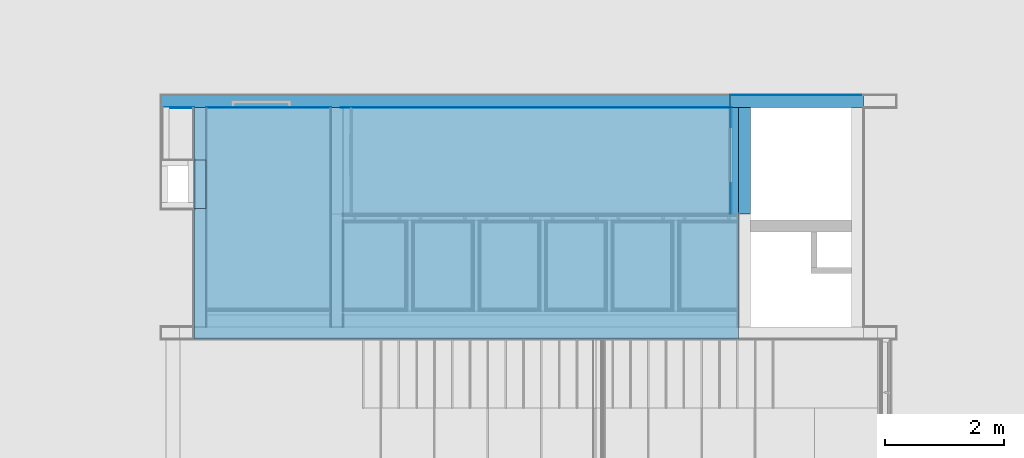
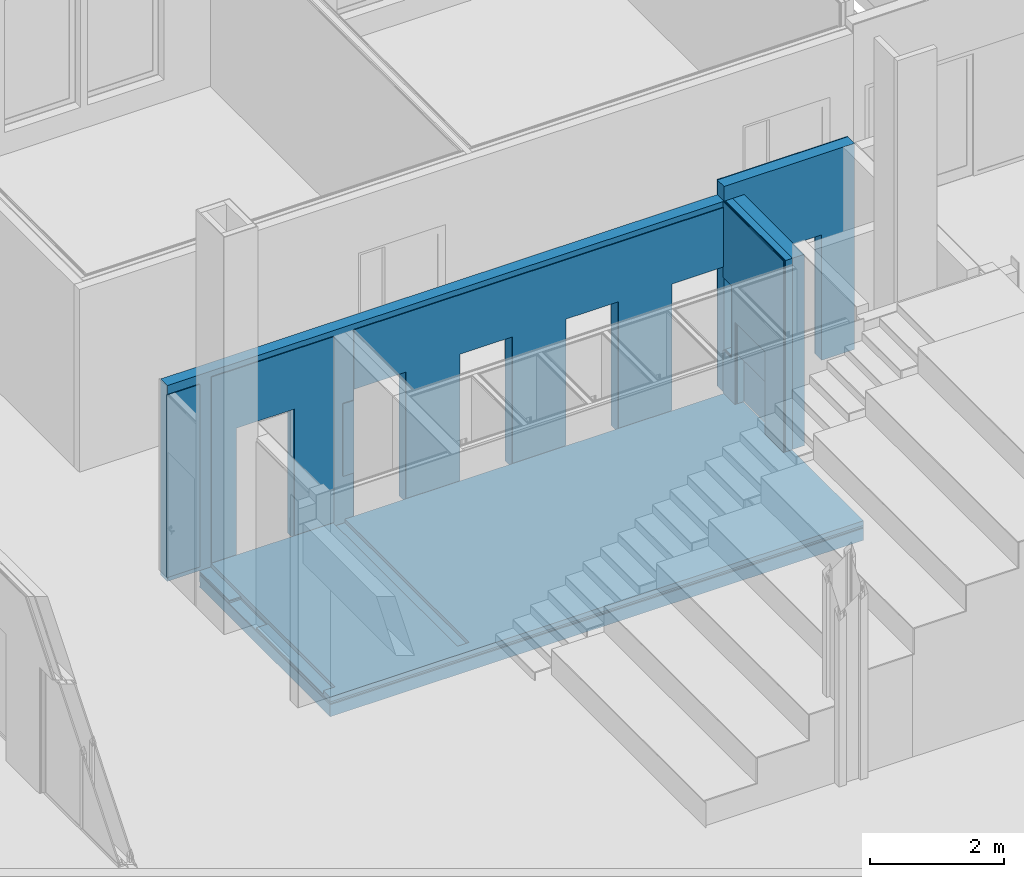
# One storey, part 100 of 139: 13 building element parts, 9 openings, 4 elements without a shape of their own.
"""IFC2X3 building model written with IfcOpenShell, lengths in millimetres."""

from ifc_helpers import new_model, entity, si_unit, converted_unit, derived_unit, money_unit, direction, frame, origin_with_axes, place, context, subcontext, project, spatial, faceted_brep, material, type_object, element, aggregate, save


model = new_model("IFC2X3")

# Units and contexts
model_context = context("Model", 3, precision=0.01, world=origin_with_axes(), true_north=direction((0.0, 1.0)))
body_context = subcontext(model_context, "Body", "Model", "MODEL_VIEW")
ifc_project = project(units=[si_unit("LENGTHUNIT", "METRE", prefix="MILLI"), si_unit("AREAUNIT", "SQUARE_METRE"), si_unit("VOLUMEUNIT", "CUBIC_METRE"), converted_unit("PLANEANGLEUNIT", "DEGREE", entity("IfcPlaneAngleMeasure", 0.0174532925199), si_unit("PLANEANGLEUNIT", "RADIAN"), dimensions=[0, 0, 0, 0, 0, 0, 0]), money_unit("EUR"), converted_unit("TIMEUNIT", "Year", entity("IfcTimeMeasure", 31556926.0), si_unit("TIMEUNIT", "SECOND"), dimensions=[0, 0, 1, 0, 0, 0, 0]), si_unit("MASSUNIT", "GRAM", prefix="KILO"), si_unit("THERMODYNAMICTEMPERATUREUNIT", "DEGREE_CELSIUS"), si_unit("LUMINOUSINTENSITYUNIT", "LUMEN"), si_unit("ENERGYUNIT", "JOULE", prefix="MEGA"), derived_unit("THERMALCONDUCTANCEUNIT", [(si_unit("POWERUNIT", "WATT"), 1), (si_unit("LENGTHUNIT", "METRE"), -1), (si_unit("THERMODYNAMICTEMPERATUREUNIT", "KELVIN"), -1)]), derived_unit("SPECIFICHEATCAPACITYUNIT", [(si_unit("ENERGYUNIT", "JOULE"), 1), (si_unit("MASSUNIT", "GRAM", prefix="KILO"), -1), (si_unit("THERMODYNAMICTEMPERATUREUNIT", "KELVIN"), -1)]), derived_unit("MASSDENSITYUNIT", [(si_unit("MASSUNIT", "GRAM", prefix="KILO"), 1), (si_unit("VOLUMEUNIT", "CUBIC_METRE"), -1)])], contexts=[model_context])

# Site, building, storey
site_placement = place(None, origin_with_axes())
site = spatial("IfcSite", under=ifc_project, at=site_placement, Name="Kolde pst 67a", CompositionType="ELEMENT")
building_placement = place(site_placement, origin_with_axes())
building = spatial("IfcBuilding", under=site, at=building_placement, Name="Riigigümnaasium", CompositionType="ELEMENT")
storey_placement = place(building_placement, frame((0.0, 0.0, 4600.0), z_axis=(0.0, 0.0, 1.0), x_axis=(1.0, 0.0, 0.0)))
storey = spatial("IfcBuildingStorey", under=building, at=storey_placement, Name="2. korrus", CompositionType="ELEMENT", Elevation=4600.0)

# Slab, building element parts
slab_type = type_object("IfcSlabType", Name="VL-RB-22/1 370", PredefinedType="NOTDEFINED")
slab_placement = place(storey_placement, frame((36604.99923, 45669.9999598, 0.0), z_axis=(0.0, 0.0, 1.0), x_axis=(1.0, 0.0, 0.0)))
slab = element("IfcSlab", 1, at=slab_placement, inside=storey, type_object=slab_type, Name="VAHELAGI", PredefinedType="NOTDEFINED")
ifc_material_1 = material(Name="_PEALEVALUKIHT - raudbetoonplaat vastavalt EK osale, vajadusel põrandküte")
building_element_part_1_placement = place(slab_placement, origin_with_axes())
building_element_part_1 = element("IfcBuildingElementPart", 2, at=building_element_part_1_placement, material=ifc_material_1, Name="_PEALEVALUKIHT - raudbetoonplaat vastavalt EK osale, vajadusel põrandküte", context=body_context, shape_type="Brep", body=[
    faceted_brep([(2304.83128133, 3900.0, -80.0), (2504.83128133, 3900.0, -80.0), (2504.83128133, 3900.0, -15.0), (9169.98623068, 3900.00004015, -15.0), (9169.98623068, 3900.00004015, -100.0), (0.0, 3900.00004015, -100.0), (0.0, 3900.0, -80.0), (200.0, 3900.0, -80.0), (200.0, 3900.0, -15.0), (2304.83128133, 3900.0, -15.0), (2304.83128133, 200.0, -80.0), (2504.83128133, 200.0, -80.0), (2504.83128133, 200.0, -15.0), (200.0, 200.0, -15.0), (0.0, 200.0, -15.0), (0.0, 0.0, -15.0), (9169.98623068, 0.0, -15.0), (2304.83128133, 200.0, -15.0), (9169.98623068, 0.0, -100.0), (200.0, 3010.00037669, -100.0), (0.0, 3010.00037669, -100.0), (0.0, 0.0, -100.0), (0.0, 2195.00037575, -100.0), (200.0, 2195.00037575, -100.0), (0.0, 3010.00037669, -80.0), (200.0, 3010.00037669, -80.0), (200.0, 2195.00037575, -80.0), (200.0, 200.0, -80.0), (0.0, 200.0, -80.0), (0.0, 2195.00037575, -80.0)], [[[0, 1, 2, 3, 4, 5, 6, 7, 8, 9]], [[1, 0, 10, 11]], [[2, 1, 11, 12]], [[9, 8, 13, 14, 15, 16, 3, 2, 12, 17]], [[18, 4, 3, 16]], [[19, 20, 5, 4, 18, 21, 22, 23]], [[24, 6, 5, 20]], [[7, 6, 24, 25]], [[8, 7, 25, 19, 23, 26, 27, 13]], [[0, 9, 17, 10]], [[17, 12, 11, 10]], [[14, 13, 27, 28]], [[28, 29, 22, 21, 15, 14]], [[21, 18, 16, 15]], [[25, 24, 20, 19]], [[29, 26, 23, 22]], [[26, 29, 28, 27]]]),
])
ifc_material_2 = material(Name="_ISOLATSIOON - löögimüraisolatsioon, mineraalvill, koormustaluvus min 20 kPa, dünaamiline jäikus 16 MN/m³, ISOVER FLO või samaväärne")
building_element_part_2_placement = place(slab_placement, origin_with_axes())
building_element_part_2 = element("IfcBuildingElementPart", 3, at=building_element_part_2_placement, material=ifc_material_2, Name="_ISOLATSIOON - löögimüraisolatsioon, mineraalvill, koormustaluvus min 20 kPa, dünaamiline jäikus 16 MN/m³, ISOVER FLO või samaväärne", context=body_context, shape_type="Brep", body=[
    faceted_brep([(200.0, 2195.00037575, -100.0), (0.0, 2195.00037575, -100.0), (0.0, 0.0, -100.0), (9169.98623068, 0.0, -100.0), (9169.98623068, 3900.00004015, -100.0), (0.0, 3900.00004015, -100.0), (0.0, 3010.00037669, -100.0), (200.0, 3010.00037669, -100.0), (200.0, 2195.00037575, -130.0), (0.0, 2195.00037575, -130.0), (0.0, 0.0, -130.0), (9169.98623068, 0.0, -130.0), (9169.98623068, 3900.00004015, -130.0), (0.0, 3900.00004015, -130.0), (0.0, 3010.00037669, -130.0), (200.0, 3010.00037669, -130.0)], [[[0, 1, 2, 3, 4, 5, 6, 7]], [[1, 0, 8, 9]], [[1, 9, 10, 2]], [[10, 11, 3, 2]], [[11, 12, 4, 3]], [[12, 13, 5, 4]], [[14, 6, 5, 13]], [[7, 6, 14, 15]], [[0, 7, 15, 8]], [[15, 14, 13, 12, 11, 10, 9, 8]]]),
])
ifc_material_3 = material(Name="_SOOJUSTUS - vahtpolüstüreenplaadid EPS 80, survetugevus min 80kPa, soojuserijuhtivus λD<0,038 W/(mK)")
building_element_part_3_placement = place(slab_placement, origin_with_axes())
building_element_part_3 = element("IfcBuildingElementPart", 4, at=building_element_part_3_placement, material=ifc_material_3, Name="_SOOJUSTUS - vahtpolüstüreenplaadid EPS 80, survetugevus min 80kPa, soojuserijuhtivus λD<0,038 W/(mK)", context=body_context, shape_type="Brep", body=[
    faceted_brep([(9169.98623068, 0.0, -150.0), (9169.98623068, 0.0, -130.0), (0.0, 0.0, -130.0), (0.0, 0.0, -150.0), (9169.98623068, 3900.00004015, -150.0), (9169.98623068, 3900.00004015, -130.0), (0.0, 3900.00004015, -130.0), (0.0, 3900.00004015, -150.0)], [[[0, 1, 2, 3]], [[4, 5, 1, 0]], [[2, 1, 5, 6]], [[3, 2, 6, 7]], [[3, 7, 4, 0]], [[7, 6, 5, 4]]]),
])
ifc_material_4 = material(Name="_KANDETARIND - monteeritav raudbetoon vastavalt EK osale")
building_element_part_4_placement = place(slab_placement, origin_with_axes())
building_element_part_4 = element("IfcBuildingElementPart", 5, at=building_element_part_4_placement, material=ifc_material_4, Name="_KANDETARIND - monteeritav raudbetoon vastavalt EK osale", context=body_context, shape_type="Brep", body=[
    faceted_brep([(0.0, 3900.0, -360.0), (200.0, 3900.0, -360.0), (200.0, 3900.0, -270.0), (0.0, 3900.0, -270.0), (0.0, 3900.00004015, -150.0), (9169.98623068, 3900.00004015, -150.0), (9169.98623068, 3900.00004015, -370.0), (0.0, 3900.00004015, -370.0), (0.0, 3885.0, -360.0), (200.0, 3885.0, -360.0), (200.0, 3885.0, -270.0), (0.0, 3885.0, -270.0), (0.0, 0.0, -370.0), (0.0, 0.0, -150.0), (9169.98623068, 0.0, -150.0), (9169.98623068, 0.0, -370.0)], [[[0, 1, 2, 3, 4, 5, 6, 7]], [[1, 0, 8, 9]], [[2, 1, 9, 10]], [[3, 2, 10, 11]], [[8, 0, 7, 12, 13, 4, 3, 11]], [[4, 13, 14, 5]], [[14, 15, 6, 5]], [[15, 12, 7, 6]], [[8, 11, 10, 9]], [[13, 12, 15, 14]]]),
])
aggregate(slab, [building_element_part_1, building_element_part_2, building_element_part_3, building_element_part_4])

# Wall, openings, building element parts
wall_type_1 = type_object("IfcWallType", Name="SS-RB-20/2_+2 plaat 230", PredefinedType="NOTDEFINED")
wall_1_placement = place(storey_placement, frame((36039.99923, 49769.9999599, -80.0), z_axis=(0.0, 0.0, 1.0), x_axis=(1.0, 0.0, 0.0)))
wall_1 = element("IfcWall", 6, at=wall_1_placement, inside=storey, type_object=wall_type_1, Name="Sisesein")
opening_1_placement = place(wall_1_placement, origin_with_axes())
element("IfcOpeningElement", 7, at=opening_1_placement, cuts=wall_1, Name="Pale", context=body_context, shape_type="Brep", body=[
    faceted_brep([(15.0, 15.0, 0.0), (0.0, 15.0, 0.0), (0.0, 15.0, 3560.0), (15.0, 15.0, 3560.0), (15.0, -200.0, 0.0), (0.0, -200.0, 0.0), (0.0, -200.0, 3560.0), (15.0, -200.0, 3560.0)], [[[0, 1, 2, 3]], [[0, 4, 5, 1]], [[1, 5, 6, 2]], [[3, 2, 6, 7]], [[4, 0, 3, 7]], [[5, 4, 7, 6]]]),
])
opening_2_placement = place(wall_1_placement, frame((9139.98623068, 0.0, 80.0), z_axis=(0.0, 0.0, 1.0), x_axis=(1.0, 0.0, 0.0)))
element("IfcOpeningElement", 8, at=opening_2_placement, cuts=wall_1, Name="Ukseava", context=body_context, shape_type="Brep", body=[
    faceted_brep([(450.0, 460.0, 0.0), (450.0, 460.0, 2300.0), (450.0, -230.0, 2300.0), (450.0, -230.0, 0.0), (-450.0, 460.0, 0.0), (-450.0, 460.0, 2300.0), (-450.0, -230.0, 2300.0), (-450.0, -230.0, 0.0)], [[[0, 1, 2, 3]], [[0, 4, 5, 1]], [[1, 5, 6, 2]], [[3, 2, 6, 7]], [[4, 0, 3, 7]], [[5, 4, 7, 6]]]),
])
opening_3_placement = place(wall_1_placement, frame((1694.98623068, 0.0, 80.0), z_axis=(0.0, 0.0, 1.0), x_axis=(1.0, 0.0, 0.0)))
element("IfcOpeningElement", 9, at=opening_3_placement, cuts=wall_1, Name="Siseuks", context=body_context, shape_type="Brep", body=[
    faceted_brep([(-500.0, -85.0, 2300.0), (-500.0, -85.0, 0.0), (-500.0, -445.0, 0.0), (-500.0, -445.0, 2300.0), (500.0, -85.0, 2300.0), (500.0, -85.0, 0.0), (500.0, -445.0, 0.0), (500.0, -445.0, 2300.0)], [[[0, 1, 2, 3]], [[0, 4, 5, 1]], [[1, 5, 6, 2]], [[3, 2, 6, 7]], [[4, 0, 3, 7]], [[5, 4, 7, 6]]]),
    faceted_brep([(-500.0, -85.0, 0.0), (-500.0, -85.0, 2300.0), (-500.0, 245.0, 2300.0), (-500.0, 245.0, 0.0), (500.0, -85.0, 0.0), (500.0, -85.0, 2300.0), (500.0, 245.0, 2300.0), (500.0, 245.0, 0.0)], [[[0, 1, 2, 3]], [[0, 4, 5, 1]], [[1, 5, 6, 2]], [[3, 2, 6, 7]], [[4, 0, 3, 7]], [[5, 4, 7, 6]]]),
])
opening_4_placement = place(wall_1_placement, frame((7314.98623068, 0.0, 80.0), z_axis=(0.0, 0.0, 1.0), x_axis=(1.0, 0.0, 0.0)))
element("IfcOpeningElement", 10, at=opening_4_placement, cuts=wall_1, Name="Ukseava", context=body_context, shape_type="Brep", body=[
    faceted_brep([(450.0, 460.0, 0.0), (450.0, 460.0, 2300.0), (450.0, -230.0, 2300.0), (450.0, -230.0, 0.0), (-450.0, 460.0, 0.0), (-450.0, 460.0, 2300.0), (-450.0, -230.0, 2300.0), (-450.0, -230.0, 0.0)], [[[0, 1, 2, 3]], [[0, 4, 5, 1]], [[1, 5, 6, 2]], [[3, 2, 6, 7]], [[4, 0, 3, 7]], [[5, 4, 7, 6]]]),
])
opening_5_placement = place(wall_1_placement, frame((5489.98623068, 0.0, 80.0), z_axis=(0.0, 0.0, 1.0), x_axis=(1.0, 0.0, 0.0)))
element("IfcOpeningElement", 11, at=opening_5_placement, cuts=wall_1, Name="Ukseava", context=body_context, shape_type="Brep", body=[
    faceted_brep([(450.0, 460.0, 0.0), (450.0, 460.0, 2300.0), (450.0, -230.0, 2300.0), (450.0, -230.0, 0.0), (-450.0, 460.0, 0.0), (-450.0, 460.0, 2300.0), (-450.0, -230.0, 2300.0), (-450.0, -230.0, 0.0)], [[[0, 1, 2, 3]], [[0, 4, 5, 1]], [[1, 5, 6, 2]], [[3, 2, 6, 7]], [[4, 0, 3, 7]], [[5, 4, 7, 6]]]),
])
opening_6_placement = place(wall_1_placement, frame((3664.98623068, 0.0, 80.0), z_axis=(0.0, 0.0, 1.0), x_axis=(1.0, 0.0, 0.0)))
element("IfcOpeningElement", 12, at=opening_6_placement, cuts=wall_1, Name="Ukseava", context=body_context, shape_type="Brep", body=[
    faceted_brep([(450.0, 460.0, 0.0), (450.0, 460.0, 2300.0), (450.0, -230.0, 2300.0), (450.0, -230.0, 0.0), (-450.0, 460.0, 0.0), (-450.0, 460.0, 2300.0), (-450.0, -230.0, 2300.0), (-450.0, -230.0, 0.0)], [[[0, 1, 2, 3]], [[0, 4, 5, 1]], [[1, 5, 6, 2]], [[3, 2, 6, 7]], [[4, 0, 3, 7]], [[5, 4, 7, 6]]]),
])
building_element_part_5_placement = place(wall_1_placement, origin_with_axes())
building_element_part_5 = element("IfcBuildingElementPart", 13, at=building_element_part_5_placement, material=ifc_material_4, Name="_KANDETARIND - monteeritav raudbetoon vastavalt EK osale", context=body_context, shape_type="Brep", body=[
    faceted_brep([(3214.98623068, 0.0, 2380.0), (3214.98623068, 0.0, 80.0), (3214.98623068, 0.0, 0.0), (2194.98623068, 0.0, 0.0), (2194.98623068, 0.0, 80.0), (2194.98623068, 0.0, 2380.0), (1194.98623068, 0.0, 2380.0), (1194.98623068, 0.0, 80.0), (1194.98623068, 0.0, 0.0), (15.0, 0.0, 0.0), (15.0, 0.0, 3560.0), (9589.98623068, 0.0, 3560.0), (9589.98623068, 0.0, 2380.0), (8689.98623068, 0.0, 2380.0), (8689.98623068, 0.0, 80.0), (8689.98623068, 0.0, 0.0), (7764.98623068, 0.0, 0.0), (7764.98623068, 0.0, 80.0), (7764.98623068, 0.0, 2380.0), (6864.98623068, 0.0, 2380.0), (6864.98623068, 0.0, 80.0), (6864.98623068, 0.0, 0.0), (5939.98623068, 0.0, 0.0), (5939.98623068, 0.0, 80.0), (5939.98623068, 0.0, 2380.0), (5039.98623068, 0.0, 2380.0), (5039.98623068, 0.0, 80.0), (5039.98623068, 0.0, 0.0), (4114.98623068, 0.0, 0.0), (4114.98623068, 0.0, 80.0), (4114.98623068, 0.0, 2380.0), (3214.98623068, -200.0, 2380.0), (3214.98623068, -200.0, 80.0), (3214.98623068, -200.0, 0.0), (2194.98623068, -200.0, 0.0), (2194.98623068, -200.0, 80.0), (2194.98623068, -200.0, 2380.0), (1194.98623068, -200.0, 2380.0), (1194.98623068, -200.0, 80.0), (1194.98623068, -200.0, 0.0), (15.0, -200.0, 0.0), (15.0, -200.0, 3560.0), (9589.98623068, -200.0, 3560.0), (9589.98623068, -200.0, 2380.0), (8689.98623068, -200.0, 2380.0), (8689.98623068, -200.0, 80.0), (8689.98623068, -200.0, 0.0), (7764.98623068, -200.0, 0.0), (7764.98623068, -200.0, 80.0), (7764.98623068, -200.0, 2380.0), (6864.98623068, -200.0, 2380.0), (6864.98623068, -200.0, 80.0), (6864.98623068, -200.0, 0.0), (5939.98623068, -200.0, 0.0), (5939.98623068, -200.0, 80.0), (5939.98623068, -200.0, 2380.0), (5039.98623068, -200.0, 2380.0), (5039.98623068, -200.0, 80.0), (5039.98623068, -200.0, 0.0), (4114.98623068, -200.0, 0.0), (4114.98623068, -200.0, 80.0), (4114.98623068, -200.0, 2380.0)], [[[0, 1, 2, 3, 4, 5, 6, 7, 8, 9, 10, 11, 12, 13, 14, 15, 16, 17, 18, 19, 20, 21, 22, 23, 24, 25, 26, 27, 28, 29, 30]], [[1, 0, 31, 32]], [[1, 32, 33, 2]], [[3, 2, 33, 34]], [[34, 35, 4, 3]], [[4, 35, 36, 5]], [[6, 5, 36, 37]], [[6, 37, 38, 7]], [[7, 38, 39, 8]], [[8, 39, 40, 9]], [[9, 40, 41, 10]], [[42, 11, 10, 41]], [[12, 11, 42, 43]], [[12, 43, 44, 13]], [[13, 44, 45, 14]], [[45, 46, 15, 14]], [[16, 15, 46, 47]], [[16, 47, 48, 17]], [[48, 49, 18, 17]], [[49, 50, 19, 18]], [[50, 51, 20, 19]], [[52, 21, 20, 51]], [[22, 21, 52, 53]], [[23, 22, 53, 54]], [[23, 54, 55, 24]], [[24, 55, 56, 25]], [[25, 56, 57, 26]], [[57, 58, 27, 26]], [[28, 27, 58, 59]], [[60, 29, 28, 59]], [[30, 29, 60, 61]], [[0, 30, 61, 31]], [[61, 60, 59, 58, 57, 56, 55, 54, 53, 52, 51, 50, 49, 48, 47, 46, 45, 44, 43, 42, 41, 40, 39, 38, 37, 36, 35, 34, 33, 32, 31]]]),
])
ifc_material_5 = material(Name="_VIIMISTLUSKIHT - viimistlus vastavalt SA osale")
building_element_part_6_placement = place(wall_1_placement, origin_with_axes())
building_element_part_6 = element("IfcBuildingElementPart", 14, at=building_element_part_6_placement, material=ifc_material_5, Name="_VIIMISTLUSKIHT - viimistlus vastavalt SA osale", context=body_context, shape_type="Brep", body=[
    faceted_brep([(0.0, -200.0, 3400.0), (565.0, -200.0, 3400.0), (565.0, -200.0, 80.0), (0.0, -200.0, 80.0), (565.0, -215.0, 3400.0), (0.0, -215.0, 3400.0), (565.0, -215.0, 80.0), (0.0, -215.0, 80.0)], [[[0, 1, 2, 3]], [[4, 1, 0, 5]], [[1, 4, 6, 2]], [[3, 2, 6, 7]], [[5, 0, 3, 7]], [[4, 5, 7, 6]]]),
    faceted_brep([(3214.98623068, -200.0, 2380.0), (3214.98623068, -199.99995985, 80.0), (3214.83128133, -199.99995985, 80.0), (3214.83128133, -199.99995985, 860.0), (3029.83128133, -199.99995985, 860.0), (3029.83128133, -199.99995985, 2180.0), (3214.83128133, -199.99995985, 2180.0), (3214.83128133, -200.0, 3460.0), (9589.98623068, -200.0, 3460.0), (9589.98623068, -200.0, 2380.0), (8689.98623068, -200.0, 2380.0), (8689.98623068, -199.99995985, 80.0), (7764.98623068, -199.99995985, 80.0), (7764.98623068, -200.0, 2380.0), (6864.98623068, -200.0, 2380.0), (6864.98623068, -199.99995985, 80.0), (5939.98623068, -199.99995985, 80.0), (5939.98623068, -200.0, 2380.0), (5039.98623068, -200.0, 2380.0), (5039.98623068, -199.99995985, 80.0), (4114.98623068, -199.99995985, 80.0), (4114.98623068, -200.0, 2380.0), (3214.98623068, -215.0, 2380.0), (3214.98623068, -215.0, 80.0), (3214.83128133, -215.0, 80.0), (3214.83128133, -215.0, 860.0), (3029.83128133, -215.0, 860.0), (3029.83128133, -215.0, 2180.0), (3214.83128133, -215.0, 2180.0), (3214.83128133, -215.0, 3460.0), (9589.98623068, -215.0, 3460.0), (9589.98623068, -215.0, 2380.0), (8689.98623068, -215.0, 2380.0), (8689.98623068, -215.0, 80.0), (7764.98623068, -215.0, 80.0), (7764.98623068, -215.0, 2380.0), (6864.98623068, -215.0, 2380.0), (6864.98623068, -215.0, 80.0), (5939.98623068, -215.0, 80.0), (5939.98623068, -215.0, 2380.0), (5039.98623068, -215.0, 2380.0), (5039.98623068, -215.0, 80.0), (4114.98623068, -215.0, 80.0), (4114.98623068, -215.0, 2380.0)], [[[0, 1, 2, 3, 4, 5, 6, 7, 8, 9, 10, 11, 12, 13, 14, 15, 16, 17, 18, 19, 20, 21]], [[1, 0, 22, 23]], [[1, 23, 24, 2]], [[2, 24, 25, 3]], [[4, 3, 25, 26]], [[27, 5, 4, 26]], [[27, 28, 6, 5]], [[29, 7, 6, 28]], [[30, 8, 7, 29]], [[30, 31, 9, 8]], [[32, 10, 9, 31]], [[33, 11, 10, 32]], [[11, 33, 34, 12]], [[34, 35, 13, 12]], [[35, 36, 14, 13]], [[36, 37, 15, 14]], [[16, 15, 37, 38]], [[16, 38, 39, 17]], [[17, 39, 40, 18]], [[18, 40, 41, 19]], [[42, 20, 19, 41]], [[21, 20, 42, 43]], [[0, 21, 43, 22]], [[43, 42, 41, 40, 39, 38, 37, 36, 35, 34, 33, 32, 31, 30, 29, 28, 27, 26, 25, 24, 23, 22]]]),
    faceted_brep([(1194.98623068, -200.0, 2380.0), (1194.98623068, -199.99995985, 80.0), (765.0, -199.99995985, 80.0), (765.0, -200.0, 3460.0), (2869.83128133, -200.0, 3460.0), (2869.83128133, -199.99995985, 80.0), (2194.98623068, -199.99995985, 80.0), (2194.98623068, -200.0, 2380.0), (1194.98623068, -215.0, 2380.0), (1194.98623068, -215.0, 80.0), (765.0, -215.0, 80.0), (765.0, -215.0, 3460.0), (2869.83128133, -215.0, 3460.0), (2869.83128133, -215.0, 80.0), (2194.98623068, -215.0, 80.0), (2194.98623068, -215.0, 2380.0)], [[[0, 1, 2, 3, 4, 5, 6, 7]], [[1, 0, 8, 9]], [[1, 9, 10, 2]], [[3, 2, 10, 11]], [[4, 3, 11, 12]], [[12, 13, 5, 4]], [[14, 6, 5, 13]], [[7, 6, 14, 15]], [[0, 7, 15, 8]], [[15, 14, 13, 12, 11, 10, 9, 8]]]),
])
aggregate(wall_1, [building_element_part_5, building_element_part_6])

# Wall, opening, building element parts
wall_type_2 = type_object("IfcWallType", Name="SS-RB-20/5_+1 plaat 215", PredefinedType="NOTDEFINED")
wall_2_placement = place(storey_placement, frame((45629.9854607, 49769.9999599, 0.0), z_axis=(0.0, 0.0, 1.0), x_axis=(1.0, 0.0, 0.0)))
wall_2 = element("IfcWall", 15, at=wall_2_placement, inside=storey, type_object=wall_type_2, Name="Sisesein")
opening_7_placement = place(wall_2_placement, frame((1078.76891191, 0.0, 0.0), z_axis=(0.0, 0.0, 1.0), x_axis=(1.0, 0.0, 0.0)))
element("IfcOpeningElement", 16, at=opening_7_placement, cuts=wall_2, Name="Siseuks", context=body_context, shape_type="Brep", body=[
    faceted_brep([(600.0, 215.0, 0.0), (600.0, 215.0, 2280.0), (600.0, -430.0, 2280.0), (600.0, -430.0, 0.0), (-600.0, 215.0, 0.0), (-600.0, 215.0, 2280.0), (-600.0, -430.0, 2280.0), (-600.0, -430.0, 0.0)], [[[0, 1, 2, 3]], [[0, 4, 5, 1]], [[1, 5, 6, 2]], [[3, 2, 6, 7]], [[4, 0, 3, 7]], [[5, 4, 7, 6]]]),
])
building_element_part_7_placement = place(wall_2_placement, origin_with_axes())
building_element_part_7 = element("IfcBuildingElementPart", 17, at=building_element_part_7_placement, material=ifc_material_5, Name="_VIIMISTLUSKIHT - viimistlus vastavalt SA osale", context=body_context, shape_type="Brep", body=[
    faceted_brep([(478.768911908, 15.0, 2280.0), (478.768911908, 15.0, 0.0), (0.0, 15.0, 0.0), (0.0, 15.0, 3747.0), (2245.0, 15.0, 3747.0), (2245.0, 15.0, 0.0), (1678.76891191, 15.0, 0.0), (1678.76891191, 15.0, 2280.0), (478.768911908, 0.0, 2280.0), (478.768911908, 0.0, 0.0), (0.0, 0.0, 0.0), (0.0, 0.0, 3747.0), (2245.0, 0.0, 3747.0), (2245.0, 0.0, 0.0), (1678.76891191, 0.0, 0.0), (1678.76891191, 0.0, 2280.0)], [[[0, 1, 2, 3, 4, 5, 6, 7]], [[1, 0, 8, 9]], [[1, 9, 10, 2]], [[3, 2, 10, 11]], [[4, 3, 11, 12]], [[13, 5, 4, 12]], [[14, 6, 5, 13]], [[7, 6, 14, 15]], [[0, 7, 15, 8]], [[15, 14, 13, 12, 11, 10, 9, 8]]]),
])
building_element_part_8_placement = place(wall_2_placement, origin_with_axes())
building_element_part_8 = element("IfcBuildingElementPart", 18, at=building_element_part_8_placement, material=ifc_material_4, Name="_KANDETARIND - monteeritav raudbetoon vastavalt EK osale", context=body_context, shape_type="Brep", body=[
    faceted_brep([(478.768911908, 0.0, 2280.0), (478.768911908, 0.0, 0.0), (0.0, 0.0, 0.0), (0.0, 0.0, 3747.0), (2245.0, 0.0, 3747.0), (2245.0, 0.0, 0.0), (1678.76891191, 0.0, 0.0), (1678.76891191, 0.0, 2280.0), (478.768911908, -200.0, 2280.0), (478.768911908, -200.0, 0.0), (0.0, -200.0, 0.0), (0.0, -200.0, 3747.0), (2245.0, -200.0, 3747.0), (2245.0, -200.0, 0.0), (1678.76891191, -200.0, 0.0), (1678.76891191, -200.0, 2280.0)], [[[0, 1, 2, 3, 4, 5, 6, 7]], [[1, 0, 8, 9]], [[1, 9, 10, 2]], [[3, 2, 10, 11]], [[4, 3, 11, 12]], [[13, 5, 4, 12]], [[14, 6, 5, 13]], [[7, 6, 14, 15]], [[0, 7, 15, 8]], [[15, 14, 13, 12, 11, 10, 9, 8]]]),
])
aggregate(wall_2, [building_element_part_7, building_element_part_8])

# Wall, openings, building element parts
wall_type_3 = type_object("IfcWallType", Name="SS-RB-20/10_+1 plaat +kollektor 360", PredefinedType="NOTDEFINED")
wall_3_placement = place(storey_placement, frame((45774.9854607, 47778.4999608, 0.0), z_axis=(0.0, 0.0, 1.0), x_axis=(0.0, 1.0, 0.0)))
wall_3 = element("IfcWall", 19, at=wall_3_placement, inside=storey, type_object=wall_type_3, Name="Sisesein")
opening_8_placement = place(wall_3_placement, frame((-47778.4999608, 45774.9854607, -4600.0), z_axis=(0.0, 0.0, 1.0), x_axis=(0.0, -1.0, 0.0)))
element("IfcOpeningElement", 20, at=opening_8_placement, cuts=wall_3, Name="Tulekustuti nišš vastavalt SA osale", ObjectType="OPENING", context=body_context, shape_type="Brep", body=[
    faceted_brep([(45774.9854607, 48320.0275677, 4600.0), (45774.9854607, 48320.0275677, 5500.0), (45614.9854607, 48320.0275677, 5500.0), (45614.9854607, 48320.0275677, 4600.0), (45774.9854607, 49220.0275677, 4600.0), (45774.9854607, 49220.0275677, 5500.0), (45614.9854607, 49220.0275677, 5500.0), (45614.9854607, 49220.0275677, 4600.0)], [[[0, 1, 2, 3]], [[0, 4, 5, 1]], [[1, 5, 6, 2]], [[3, 2, 6, 7]], [[4, 0, 3, 7]], [[5, 4, 7, 6]]]),
])
opening_9_placement = place(wall_3_placement, frame((-47778.4999608, 45774.9854607, -4600.0), z_axis=(0.0, 0.0, 1.0), x_axis=(0.0, -1.0, 0.0)))
element("IfcOpeningElement", 21, at=opening_9_placement, cuts=wall_3, Name="Tulekustuti nišš vastavalt SA osale", ObjectType="OPENING", context=body_context, shape_type="Brep", body=[
    faceted_brep([(45814.985451, 49319.9999599, 5380.0), (45814.985451, 49319.9999599, 6700.0), (45614.985451, 49319.9999599, 6700.0), (45614.985451, 49319.9999599, 5380.0), (45814.985451, 49569.9999599, 5380.0), (45814.985451, 49569.9999599, 6700.0), (45614.985451, 49569.9999599, 6700.0), (45614.985451, 49569.9999599, 5380.0)], [[[0, 1, 2, 3]], [[0, 4, 5, 1]], [[1, 5, 6, 2]], [[3, 2, 6, 7]], [[4, 0, 3, 7]], [[5, 4, 7, 6]]]),
])
building_element_part_9_placement = place(wall_3_placement, origin_with_axes())
building_element_part_9 = element("IfcBuildingElementPart", 22, at=building_element_part_9_placement, material=ifc_material_5, Name="_VIIMISTLUSKIHT - viimistlus vastavalt SA osale", context=body_context, shape_type="Brep", body=[
    faceted_brep([(541.499972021, 145.0, 0.0), (541.499972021, 145.0, 1500.0), (1441.49999016, 145.0, 1500.0), (1441.49999016, 145.0, 900.0), (1441.52760694, 145.0, 900.0), (1441.52760694, 145.0, 0.0), (1791.49999905, 145.0, 0.0), (1791.49999905, 145.0, 780.0), (1541.49999905, 145.0, 780.0), (1541.49999905, 145.0, 2100.0), (1791.49999905, 145.0, 2100.0), (1791.49999905, 145.0, 3479.99999523), (0.0, 145.0, 3479.99999523), (0.0, 145.0, 0.0), (541.499972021, 160.0, 0.0), (541.499972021, 160.0, 1500.0), (1441.49999016, 160.0, 1500.0), (1441.49999016, 160.0, 900.0), (1441.52760694, 160.0, 900.0), (1441.52760694, 160.0, 0.0), (1791.49999905, 160.0, 0.0), (1791.49999905, 160.000009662, 780.0), (1541.49999905, 160.000009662, 780.0), (1541.49999905, 160.000009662, 2100.0), (1791.49999905, 160.000009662, 2100.0), (1791.49999905, 160.0, 3479.99999523), (0.0, 160.0, 3479.99999523), (0.0, 160.0, 0.0)], [[[0, 1, 2, 3, 4, 5, 6, 7, 8, 9, 10, 11, 12, 13]], [[1, 0, 14, 15]], [[2, 1, 15, 16]], [[3, 2, 16, 17]], [[3, 17, 18, 4]], [[19, 5, 4, 18]], [[6, 5, 19, 20]], [[20, 21, 7, 6]], [[22, 8, 7, 21]], [[23, 9, 8, 22]], [[23, 24, 10, 9]], [[11, 10, 24, 25]], [[26, 12, 11, 25]], [[27, 13, 12, 26]], [[14, 0, 13, 27]], [[15, 14, 27, 26, 25, 24, 23, 22, 21, 20, 19, 18, 17, 16]]]),
])
ifc_material_6 = material(Name="_PLAATMATERJAL - kipsplaat veekindel")
building_element_part_10_placement = place(wall_3_placement, origin_with_axes())
building_element_part_10 = element("IfcBuildingElementPart", 23, at=building_element_part_10_placement, material=ifc_material_6, Name="_PLAATMATERJAL - kipsplaat veekindel", context=body_context, shape_type="Brep", body=[
    faceted_brep([(541.499972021, 132.5, 0.0), (541.499972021, 132.5, 1500.0), (1441.49999016, 132.5, 1500.0), (1441.49999016, 132.5, 900.0), (1441.52760694, 132.5, 900.0), (1441.52760694, 132.5, 0.0), (1791.49999905, 132.5, 0.0), (1791.49999905, 132.5, 780.0), (1541.49999905, 132.5, 780.0), (1541.49999905, 132.5, 2100.0), (1791.49999905, 132.5, 2100.0), (1791.49999905, 132.5, 3479.99999523), (0.0, 132.5, 3479.99999523), (0.0, 132.5, 0.0), (541.499972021, 145.0, 0.0), (541.499972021, 145.0, 1500.0), (1441.49999016, 145.0, 1500.0), (1441.49999016, 145.0, 900.0), (1441.52760694, 145.0, 900.0), (1441.52760694, 145.0, 0.0), (1791.49999905, 145.0, 0.0), (1791.49999905, 145.0, 780.0), (1541.49999905, 145.0, 780.0), (1541.49999905, 145.0, 2100.0), (1791.49999905, 145.0, 2100.0), (1791.49999905, 145.0, 3479.99999523), (0.0, 145.0, 3479.99999523), (0.0, 145.0, 0.0)], [[[0, 1, 2, 3, 4, 5, 6, 7, 8, 9, 10, 11, 12, 13]], [[1, 0, 14, 15]], [[2, 1, 15, 16]], [[3, 2, 16, 17]], [[3, 17, 18, 4]], [[19, 5, 4, 18]], [[6, 5, 19, 20]], [[20, 21, 7, 6]], [[22, 8, 7, 21]], [[23, 9, 8, 22]], [[23, 24, 10, 9]], [[11, 10, 24, 25]], [[26, 12, 11, 25]], [[27, 13, 12, 26]], [[14, 0, 13, 27]], [[15, 14, 27, 26, 25, 24, 23, 22, 21, 20, 19, 18, 17, 16]]]),
])
building_element_part_11_placement = place(wall_3_placement, origin_with_axes())
building_element_part_11 = element("IfcBuildingElementPart", 24, at=building_element_part_11_placement, material=ifc_material_6, Name="_PLAATMATERJAL - kipsplaat veekindel", context=body_context, shape_type="Brep", body=[
    faceted_brep([(541.499972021, 120.0, 0.0), (541.499972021, 120.0, 1500.0), (1441.49999016, 120.0, 1500.0), (1441.49999016, 120.0, 900.0), (1441.52760694, 120.0, 900.0), (1441.52760694, 120.0, 0.0), (1791.49999905, 120.0, 0.0), (1791.49999905, 120.0, 780.0), (1541.49999905, 120.0, 780.0), (1541.49999905, 120.0, 2100.0), (1791.49999905, 120.0, 2100.0), (1791.49999905, 120.0, 3479.99999523), (0.0, 120.0, 3479.99999523), (0.0, 120.0, 0.0), (541.499972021, 132.5, 0.0), (541.499972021, 132.5, 1500.0), (1441.49999016, 132.5, 1500.0), (1441.49999016, 132.5, 900.0), (1441.52760694, 132.5, 900.0), (1441.52760694, 132.5, 0.0), (1791.49999905, 132.5, 0.0), (1791.49999905, 132.5, 780.0), (1541.49999905, 132.5, 780.0), (1541.49999905, 132.5, 2100.0), (1791.49999905, 132.5, 2100.0), (1791.49999905, 132.5, 3479.99999523), (0.0, 132.5, 3479.99999523), (0.0, 132.5, 0.0)], [[[0, 1, 2, 3, 4, 5, 6, 7, 8, 9, 10, 11, 12, 13]], [[1, 0, 14, 15]], [[2, 1, 15, 16]], [[3, 2, 16, 17]], [[3, 17, 18, 4]], [[19, 5, 4, 18]], [[6, 5, 19, 20]], [[20, 21, 7, 6]], [[22, 8, 7, 21]], [[23, 9, 8, 22]], [[23, 24, 10, 9]], [[11, 10, 24, 25]], [[26, 12, 11, 25]], [[27, 13, 12, 26]], [[14, 0, 13, 27]], [[15, 14, 27, 26, 25, 24, 23, 22, 21, 20, 19, 18, 17, 16]]]),
])
ifc_material_7 = material(Name="_KARKASS - eriprofiilkinnitus vastavalt sisemisele plaatviimistlusele")
building_element_part_12_placement = place(wall_3_placement, origin_with_axes())
building_element_part_12 = element("IfcBuildingElementPart", 25, at=building_element_part_12_placement, material=ifc_material_7, Name="_KARKASS - eriprofiilkinnitus vastavalt sisemisele plaatviimistlusele", context=body_context, shape_type="Brep", body=[
    faceted_brep([(1791.49999905, 0.0, 780.0), (1541.49999905, 0.0, 780.0), (1541.49999905, 0.0, 2100.0), (1791.49999905, 0.0, 2100.0), (1791.49999905, 0.0, 3479.99999523), (0.0, 0.0, 3479.99999523), (0.0, 0.0, 0.0), (541.527606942, 0.0, 0.0), (541.527606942, 0.0, 900.0), (1441.52760694, 0.0, 900.0), (1441.52760694, 0.0, 0.0), (1791.49999905, 0.0, 0.0), (1541.49999905, 120.0, 780.0), (1791.49999905, 120.0, 780.0), (1541.49999905, 120.0, 2100.0), (1791.49999905, 120.0, 2100.0), (1791.49999905, 120.0, 3479.99999523), (0.0, 120.0, 3479.99999523), (0.0, 120.0, 0.0), (541.527606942, 120.0, 0.0), (541.527606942, 120.0, 900.0), (1441.52760694, 120.0, 900.0), (1441.52760694, 120.0, 0.0), (1791.49999905, 120.0, 0.0)], [[[0, 1, 2, 3, 4, 5, 6, 7, 8, 9, 10, 11]], [[12, 1, 0, 13]], [[14, 2, 1, 12]], [[14, 15, 3, 2]], [[4, 3, 15, 16]], [[17, 5, 4, 16]], [[18, 6, 5, 17]], [[18, 19, 7, 6]], [[20, 8, 7, 19]], [[21, 9, 8, 20]], [[22, 10, 9, 21]], [[11, 10, 22, 23]], [[23, 13, 0, 11]], [[14, 12, 13, 23, 22, 21, 20, 19, 18, 17, 16, 15]]]),
])
building_element_part_13_placement = place(wall_3_placement, origin_with_axes())
building_element_part_13 = element("IfcBuildingElementPart", 26, at=building_element_part_13_placement, material=ifc_material_4, Name="_KANDETARIND - monteeritav raudbetoon vastavalt EK osale", context=body_context, shape_type="Brep", body=[
    faceted_brep([(1791.49999905, 0.0, 780.0), (1791.49999905, -39.9999903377, 780.0), (1791.49999905, -39.9999903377, 2100.0), (1791.49999905, 0.0, 2100.0), (1791.49999905, 0.0, 3479.99999523), (1791.49999905, -200.0, 3479.99999523), (1791.49999905, -200.0, 0.0), (1791.49999905, 0.0, 0.0), (1541.49999905, 0.0, 780.0), (1541.49999905, -39.9999903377, 780.0), (1541.49999905, -39.9999903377, 2100.0), (1541.49999905, 0.0, 2100.0), (0.0, 0.0, 0.0), (0.0, 0.0, 3479.99999523), (0.0, -200.0, 3479.99999523), (0.0, -200.0, 0.0)], [[[0, 1, 2, 3, 4, 5, 6, 7]], [[1, 0, 8, 9]], [[2, 1, 9, 10]], [[3, 2, 10, 11]], [[8, 0, 7, 12, 13, 4, 3, 11]], [[14, 5, 4, 13]], [[15, 6, 5, 14]], [[12, 7, 6, 15]], [[8, 11, 10, 9]], [[15, 14, 13, 12]]]),
])
aggregate(wall_3, [building_element_part_9, building_element_part_10, building_element_part_11, building_element_part_12, building_element_part_13])

save(model, "model.ifc")
